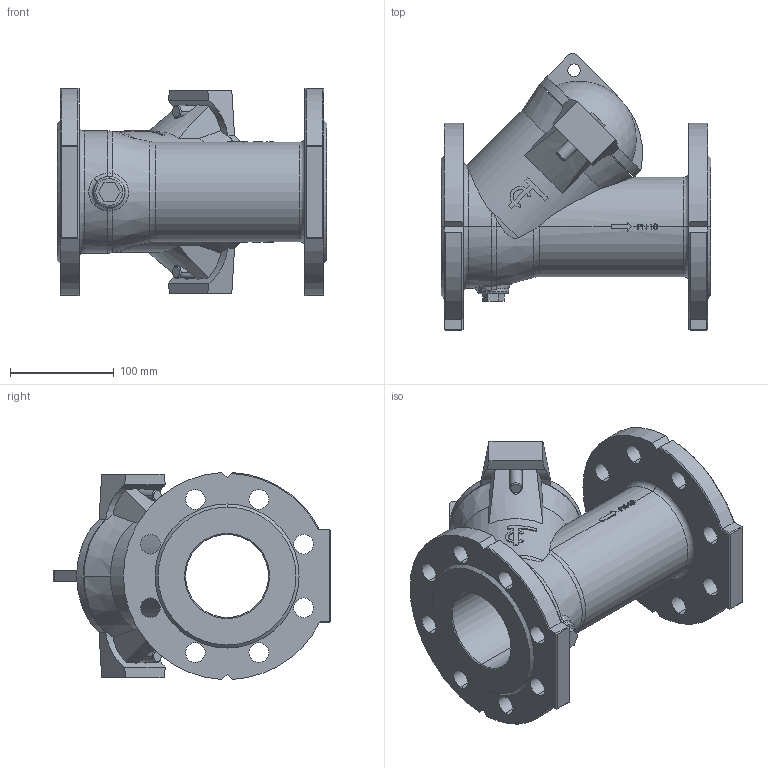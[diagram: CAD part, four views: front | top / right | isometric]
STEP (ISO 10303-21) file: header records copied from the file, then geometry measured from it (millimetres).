
FILE_DESCRIPTION (( 'STEP AP203' ), '1' );
FILE_NAME ('CBL DN80.STEP', '2010-05-05T07:19:33', ( 'farex' ), ( '' ), 'SwSTEP 2.0', 'SolidWorks 2009', '' );
FILE_SCHEMA (( 'CONFIG_CONTROL_DESIGN' ));
Length unit declared in the file: millimetre
Products named in the file (1): CBL DN80
Bounding box: 260 x 267.62 x 199.75 mm (x, y, z)
Volume: 2878077.9 mm3; surface area: 331900 mm2
Topology: 1 solids, 1 shells, 392 faces, 1029 edges, 664 vertices
Faces by surface type: plane 167, cylinder 98, bspline 86, cone 25, torus 14, sphere 2
Entity records: 27872 total; most frequent: CARTESIAN_POINT 18831, ORIENTED_EDGE 2058, DIRECTION 1535, EDGE_CURVE 1029, VERTEX_POINT 664, AXIS2_PLACEMENT_3D 561, EDGE_LOOP 457, VECTOR 413
